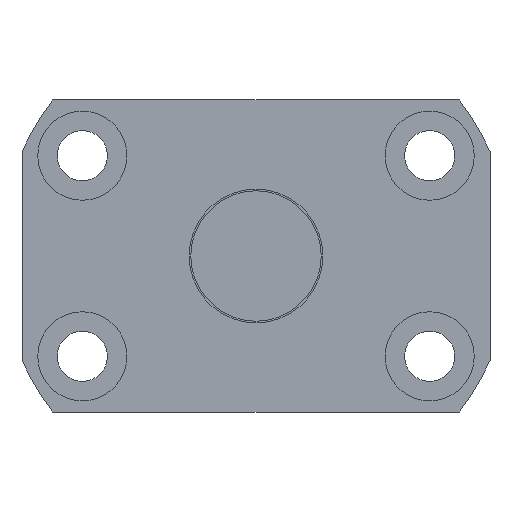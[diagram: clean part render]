
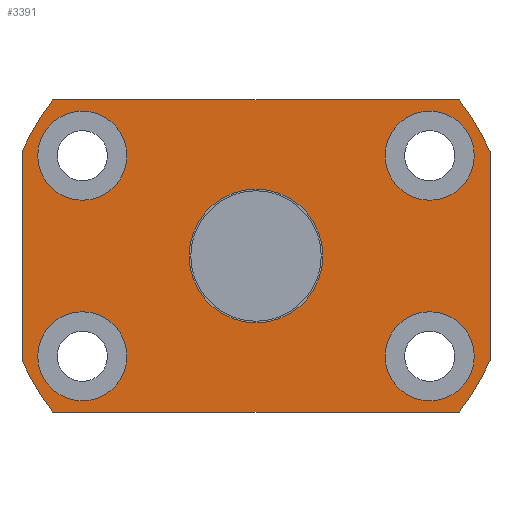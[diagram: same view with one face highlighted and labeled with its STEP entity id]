
A CAD part, left-side view. The second image highlights one B-rep face of the part: STEP entity #3391.
In plain terms, the highlighted planar face has unit normal (-1, 0, 0).
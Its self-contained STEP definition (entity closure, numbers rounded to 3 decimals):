
#479=CARTESIAN_POINT('',(119.686,19.588,-9.0));
#480=VERTEX_POINT('',#479);
#481=CARTESIAN_POINT('',(119.686,15.588,-9.0));
#482=DIRECTION('',(1.0,0.0,0.0));
#483=DIRECTION('',(0.0,1.0,0.0));
#484=AXIS2_PLACEMENT_3D('',#481,#482,#483);
#485=CIRCLE('',#484,4.0);
#486=EDGE_CURVE('',#480,#480,#485,.T.);
#547=CARTESIAN_POINT('',(119.686,-11.588,9.));
#548=VERTEX_POINT('',#547);
#549=CARTESIAN_POINT('',(119.686,-15.588,9.));
#550=DIRECTION('',(1.0,0.0,0.0));
#551=DIRECTION('',(0.0,1.0,0.0));
#552=AXIS2_PLACEMENT_3D('',#549,#550,#551);
#553=CIRCLE('',#552,4.0);
#554=EDGE_CURVE('',#548,#548,#553,.T.);
#615=CARTESIAN_POINT('',(119.686,19.588,9.));
#616=VERTEX_POINT('',#615);
#617=CARTESIAN_POINT('',(119.686,15.588,9.));
#618=DIRECTION('',(1.0,0.0,0.0));
#619=DIRECTION('',(0.0,1.0,0.0));
#620=AXIS2_PLACEMENT_3D('',#617,#618,#619);
#621=CIRCLE('',#620,4.0);
#622=EDGE_CURVE('',#616,#616,#621,.T.);
#683=CARTESIAN_POINT('',(119.686,-11.588,-9.));
#684=VERTEX_POINT('',#683);
#685=CARTESIAN_POINT('',(119.686,-15.588,-9.));
#686=DIRECTION('',(1.0,0.0,0.0));
#687=DIRECTION('',(0.0,1.0,0.0));
#688=AXIS2_PLACEMENT_3D('',#685,#686,#687);
#689=CIRCLE('',#688,4.0);
#690=EDGE_CURVE('',#684,#684,#689,.T.);
#3093=CARTESIAN_POINT('',(119.686,-18.248,14.));
#3094=VERTEX_POINT('',#3093);
#3101=CARTESIAN_POINT('',(119.686,-21.0,9.381));
#3102=VERTEX_POINT('',#3101);
#3103=CARTESIAN_POINT('',(119.686,0.,0.0));
#3104=DIRECTION('',(1.0,0.0,0.0));
#3105=DIRECTION('',(0.0,1.0,0.0));
#3106=AXIS2_PLACEMENT_3D('',#3103,#3104,#3105);
#3107=CIRCLE('',#3106,23.);
#3108=EDGE_CURVE('',#3094,#3102,#3107,.T.);
#3125=CARTESIAN_POINT('',(119.686,18.248,14.));
#3126=VERTEX_POINT('',#3125);
#3133=CARTESIAN_POINT('',(119.686,18.248,14.));
#3134=DIRECTION('',(0.0,-1.0,0.0));
#3135=VECTOR('',#3134,36.497);
#3136=LINE('',#3133,#3135);
#3137=EDGE_CURVE('',#3126,#3094,#3136,.T.);
#3149=CARTESIAN_POINT('',(119.686,21.,9.381));
#3150=VERTEX_POINT('',#3149);
#3157=CARTESIAN_POINT('',(119.686,0.,0.0));
#3158=DIRECTION('',(1.0,0.0,0.0));
#3159=DIRECTION('',(0.0,1.0,0.0));
#3160=AXIS2_PLACEMENT_3D('',#3157,#3158,#3159);
#3161=CIRCLE('',#3160,23.);
#3162=EDGE_CURVE('',#3150,#3126,#3161,.T.);
#3174=CARTESIAN_POINT('',(119.686,21.0,-9.381));
#3175=VERTEX_POINT('',#3174);
#3182=CARTESIAN_POINT('',(119.686,21.0,-9.381));
#3183=DIRECTION('',(0.0,0.0,1.0));
#3184=VECTOR('',#3183,18.762);
#3185=LINE('',#3182,#3184);
#3186=EDGE_CURVE('',#3175,#3150,#3185,.T.);
#3198=CARTESIAN_POINT('',(119.686,18.248,-14.));
#3199=VERTEX_POINT('',#3198);
#3206=CARTESIAN_POINT('',(119.686,0.,0.0));
#3207=DIRECTION('',(1.0,0.0,0.0));
#3208=DIRECTION('',(0.0,1.0,0.0));
#3209=AXIS2_PLACEMENT_3D('',#3206,#3207,#3208);
#3210=CIRCLE('',#3209,23.);
#3211=EDGE_CURVE('',#3199,#3175,#3210,.T.);
#3223=CARTESIAN_POINT('',(119.686,-18.248,-14.));
#3224=VERTEX_POINT('',#3223);
#3231=CARTESIAN_POINT('',(119.686,-18.248,-14.));
#3232=DIRECTION('',(0.0,1.0,0.0));
#3233=VECTOR('',#3232,36.497);
#3234=LINE('',#3231,#3233);
#3235=EDGE_CURVE('',#3224,#3199,#3234,.T.);
#3247=CARTESIAN_POINT('',(119.686,-21.0,-9.381));
#3248=VERTEX_POINT('',#3247);
#3255=CARTESIAN_POINT('',(119.686,0.,0.0));
#3256=DIRECTION('',(1.0,0.0,0.0));
#3257=DIRECTION('',(0.0,1.0,0.0));
#3258=AXIS2_PLACEMENT_3D('',#3255,#3256,#3257);
#3259=CIRCLE('',#3258,23.);
#3260=EDGE_CURVE('',#3248,#3224,#3259,.T.);
#3273=CARTESIAN_POINT('',(119.686,-21.0,9.381));
#3274=DIRECTION('',(0.0,0.0,-1.0));
#3275=VECTOR('',#3274,18.762);
#3276=LINE('',#3273,#3275);
#3277=EDGE_CURVE('',#3102,#3248,#3276,.T.);
#3288=CARTESIAN_POINT('',(119.686,6.,0.0));
#3289=VERTEX_POINT('',#3288);
#3290=CARTESIAN_POINT('',(119.686,0.,0.0));
#3291=DIRECTION('',(1.0,0.0,0.0));
#3292=DIRECTION('',(0.0,1.0,0.0));
#3293=AXIS2_PLACEMENT_3D('',#3290,#3291,#3292);
#3294=CIRCLE('',#3293,6.);
#3295=EDGE_CURVE('',#3289,#3289,#3294,.T.);
#3361=CARTESIAN_POINT('',(119.686,9.5,0.0));
#3362=DIRECTION('',(-1.0,0.0,0.0));
#3363=DIRECTION('',(0.0,0.0,1.0));
#3364=AXIS2_PLACEMENT_3D('',#3361,#3362,#3363);
#3365=PLANE('',#3364);
#3366=ORIENTED_EDGE('',*,*,#3186,.F.);
#3367=ORIENTED_EDGE('',*,*,#3211,.F.);
#3368=ORIENTED_EDGE('',*,*,#3235,.F.);
#3369=ORIENTED_EDGE('',*,*,#3260,.F.);
#3370=ORIENTED_EDGE('',*,*,#3277,.F.);
#3371=ORIENTED_EDGE('',*,*,#3108,.F.);
#3372=ORIENTED_EDGE('',*,*,#3137,.F.);
#3373=ORIENTED_EDGE('',*,*,#3162,.F.);
#3374=EDGE_LOOP('',(#3366,#3367,#3368,#3369,#3370,#3371,#3372,#3373));
#3375=FACE_OUTER_BOUND('',#3374,.T.);
#3376=ORIENTED_EDGE('',*,*,#486,.T.);
#3377=EDGE_LOOP('',(#3376));
#3378=FACE_BOUND('',#3377,.T.);
#3379=ORIENTED_EDGE('',*,*,#554,.T.);
#3380=EDGE_LOOP('',(#3379));
#3381=FACE_BOUND('',#3380,.T.);
#3382=ORIENTED_EDGE('',*,*,#622,.T.);
#3383=EDGE_LOOP('',(#3382));
#3384=FACE_BOUND('',#3383,.T.);
#3385=ORIENTED_EDGE('',*,*,#690,.T.);
#3386=EDGE_LOOP('',(#3385));
#3387=FACE_BOUND('',#3386,.T.);
#3388=ORIENTED_EDGE('',*,*,#3295,.T.);
#3389=EDGE_LOOP('',(#3388));
#3390=FACE_BOUND('',#3389,.T.);
#3391=ADVANCED_FACE('',(#3375,#3378,#3381,#3384,#3387,#3390),#3365,.T.);
